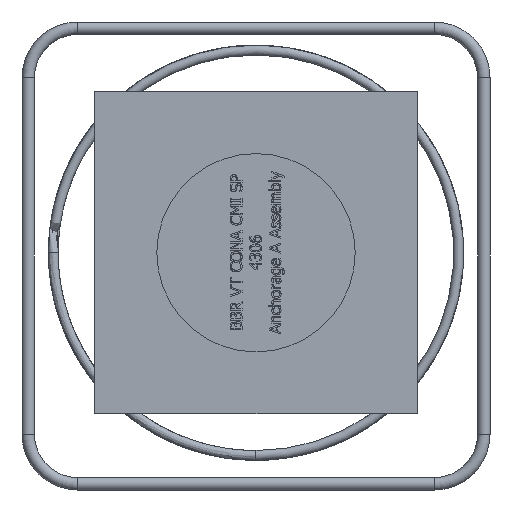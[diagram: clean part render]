
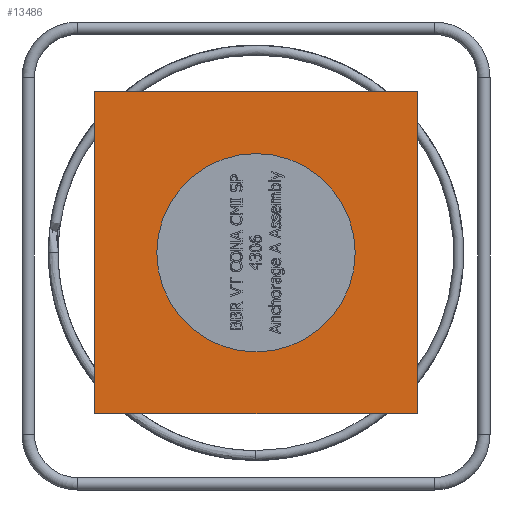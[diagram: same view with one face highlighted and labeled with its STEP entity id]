
A CAD part, left-side view. The second image highlights one B-rep face of the part: STEP entity #13486.
In plain terms, the highlighted planar face has unit normal (-1, 0, 0).
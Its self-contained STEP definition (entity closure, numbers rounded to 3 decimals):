
#1997=LINE('',#29912,#3083);
#2001=LINE('',#29919,#3087);
#2004=LINE('',#29924,#3090);
#2007=LINE('',#29928,#3093);
#3083=VECTOR('',#16079,520.);
#3087=VECTOR('',#16085,520.);
#3090=VECTOR('',#16090,520.);
#3093=VECTOR('',#16095,520.);
#3417=PLANE('',#14003);
#3605=FACE_BOUND('',#5189,.T.);
#4332=FACE_OUTER_BOUND('',#5188,.T.);
#5188=EDGE_LOOP('',(#11926,#11927,#11928,#11929));
#5189=EDGE_LOOP('',(#11930));
#5313=CIRCLE('',#13959,160.);
#6535=VERTEX_POINT('',#23693);
#6563=VERTEX_POINT('',#29910);
#6564=VERTEX_POINT('',#29911);
#6566=VERTEX_POINT('',#29918);
#6567=VERTEX_POINT('',#29923);
#8325=EDGE_CURVE('',#6535,#6535,#5313,.T.);
#8355=EDGE_CURVE('',#6563,#6564,#1997,.T.);
#8359=EDGE_CURVE('',#6564,#6566,#2001,.T.);
#8362=EDGE_CURVE('',#6566,#6567,#2004,.T.);
#8365=EDGE_CURVE('',#6567,#6563,#2007,.T.);
#11926=ORIENTED_EDGE('',*,*,#8365,.T.);
#11927=ORIENTED_EDGE('',*,*,#8355,.T.);
#11928=ORIENTED_EDGE('',*,*,#8359,.T.);
#11929=ORIENTED_EDGE('',*,*,#8362,.T.);
#11930=ORIENTED_EDGE('',*,*,#8325,.T.);
#13486=ADVANCED_FACE('',(#4332,#3605),#3417,.F.);
#13959=AXIS2_PLACEMENT_3D('',#23694,#15991,#15992);
#14003=AXIS2_PLACEMENT_3D('',#29930,#16097,#16098);
#15991=DIRECTION('center_axis',(1.,0.,0.));
#15992=DIRECTION('ref_axis',(0.,0.,
-1.));
#16079=DIRECTION('',(0.,0.,-1.));
#16085=DIRECTION('',(0.,-1.,0.));
#16090=DIRECTION('',(0.,0.,1.));
#16095=DIRECTION('',(0.,1.,0.));
#16097=DIRECTION('center_axis',(1.,0.,0.));
#16098=DIRECTION('ref_axis',(0.,0.,1.));
#23693=CARTESIAN_POINT('',(-112.151,0.,-154.747));
#23694=CARTESIAN_POINT('Origin',(-112.151,0.,
5.253));
#29910=CARTESIAN_POINT('',(-112.151,260.,265.253));
#29911=CARTESIAN_POINT('',(-112.151,260.,-254.747));
#29912=CARTESIAN_POINT('',(-112.151,260.,265.253));
#29918=CARTESIAN_POINT('',(-112.151,-260.,-254.747));
#29919=CARTESIAN_POINT('',(-112.151,260.,-254.747));
#29923=CARTESIAN_POINT('',(-112.151,-260.,265.253));
#29924=CARTESIAN_POINT('',(-112.151,-260.,-254.747));
#29928=CARTESIAN_POINT('',(-112.151,-260.,265.253));
#29930=CARTESIAN_POINT('Origin',(-112.151,0.,
5.253));
